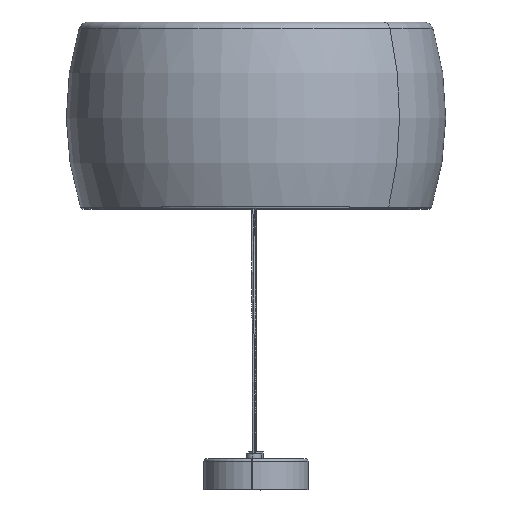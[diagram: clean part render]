
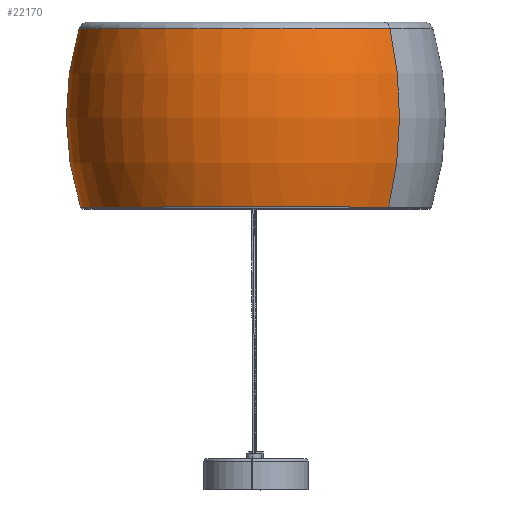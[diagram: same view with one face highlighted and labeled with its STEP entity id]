
A CAD part, top view. The second image highlights one B-rep face of the part: STEP entity #22170.
In plain terms, the highlighted toroidal (fillet/blend) face has major radius 117.617 mm and minor radius 317.7 mm.
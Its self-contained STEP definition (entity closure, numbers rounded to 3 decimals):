
#568 = ORIENTED_EDGE ( 'NONE', *, *, #1670, .T. ) ;
#1264 = CARTESIAN_POINT ( 'NONE',  ( 0., 7.131, 186.73 ) ) ;
#1318 = DIRECTION ( 'NONE',  ( -1., 0., 0. ) ) ;
#1581 = AXIS2_PLACEMENT_3D ( 'NONE', #5546, #10634, #7256 ) ;
#1670 = EDGE_CURVE ( 'NONE', #6831, #5352, #22319, .T. ) ;
#2673 = CARTESIAN_POINT ( 'NONE',  ( 0., 98.272, 117.617 ) ) ;
#2696 = ORIENTED_EDGE ( 'NONE', *, *, #4896, .F. ) ;
#3728 = FACE_OUTER_BOUND ( 'NONE', #5483, .T. ) ;
#4427 = DIRECTION ( 'NONE',  ( 0., 0., -1. ) ) ;
#4654 = AXIS2_PLACEMENT_3D ( 'NONE', #19981, #9522, #21722 ) ;
#4896 = EDGE_CURVE ( 'NONE', #14473, #18479, #17443, .T. ) ;
#5094 = CARTESIAN_POINT ( 'NONE',  ( 0., 195., -185. ) ) ;
#5352 = VERTEX_POINT ( 'NONE', #1264 ) ;
#5483 = EDGE_LOOP ( 'NONE', ( #19172, #568, #11006, #2696 ) ) ;
#5546 = CARTESIAN_POINT ( 'NONE',  ( 0., 98.272, 0. ) ) ;
#5855 = DIRECTION ( 'NONE',  ( 0., 1., 0. ) ) ;
#6807 = CARTESIAN_POINT ( 'NONE',  ( 0., 7.131, -186.73 ) ) ;
#6831 = VERTEX_POINT ( 'NONE', #6807 ) ;
#7256 = DIRECTION ( 'NONE',  ( 0., 0., 1. ) ) ;
#9522 = DIRECTION ( 'NONE',  ( 0., 1., 0. ) ) ;
#10349 = CARTESIAN_POINT ( 'NONE',  ( 0., 195., 0. ) ) ;
#10611 = EDGE_CURVE ( 'NONE', #5352, #18479, #14977, .T. ) ;
#10634 = DIRECTION ( 'NONE',  ( 0., 1., 0. ) ) ;
#11006 = ORIENTED_EDGE ( 'NONE', *, *, #10611, .T. ) ;
#11650 = CARTESIAN_POINT ( 'NONE',  ( 0., 98.272, -117.617 ) ) ;
#12083 = DIRECTION ( 'NONE',  ( 0., 0., 1. ) ) ;
#12193 = CARTESIAN_POINT ( 'NONE',  ( 0., 195., 185. ) ) ;
#13101 = AXIS2_PLACEMENT_3D ( 'NONE', #11650, #1318, #13414 ) ;
#13414 = DIRECTION ( 'NONE',  ( 0., 0., 1. ) ) ;
#13902 = AXIS2_PLACEMENT_3D ( 'NONE', #2673, #14772, #4427 ) ;
#14058 = CIRCLE ( 'NONE', #13902, 317.7 ) ;
#14473 = VERTEX_POINT ( 'NONE', #5094 ) ;
#14772 = DIRECTION ( 'NONE',  ( 1., 0., 0. ) ) ;
#14977 = CIRCLE ( 'NONE', #13101, 317.7 ) ;
#17443 = CIRCLE ( 'NONE', #20281, 185. ) ;
#18479 = VERTEX_POINT ( 'NONE', #12193 ) ;
#19172 = ORIENTED_EDGE ( 'NONE', *, *, #20385, .F. ) ;
#19981 = CARTESIAN_POINT ( 'NONE',  ( 0., 7.131, 0. ) ) ;
#20281 = AXIS2_PLACEMENT_3D ( 'NONE', #10349, #5855, #12083 ) ;
#20385 = EDGE_CURVE ( 'NONE', #6831, #14473, #14058, .T. ) ;
#21722 = DIRECTION ( 'NONE',  ( 0., 0., 1. ) ) ;
#22170 = ADVANCED_FACE ( 'NONE', ( #3728 ), #22182, .T. ) ;
#22182 = TOROIDAL_SURFACE ( 'NONE', #1581, -117.617, 317.7 ) ;
#22319 = CIRCLE ( 'NONE', #4654, 186.73 ) ;
